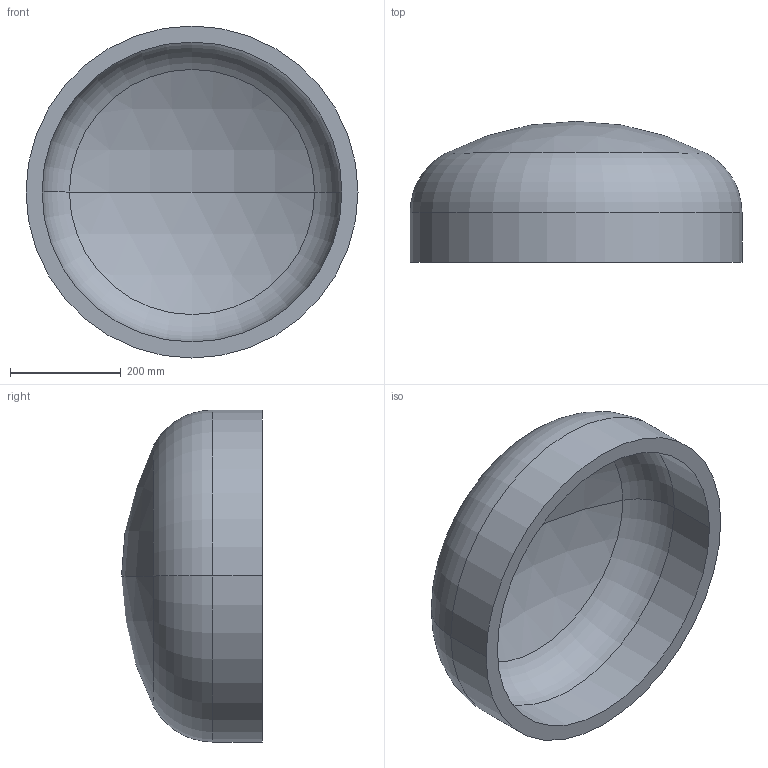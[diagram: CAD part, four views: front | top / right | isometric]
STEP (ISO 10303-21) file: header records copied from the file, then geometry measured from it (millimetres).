
FILE_DESCRIPTION (( 'STEP AP203' ), '1' );
FILE_NAME ('DIN 28013 Korbbogenform_-_Boden DIN 28013 - 600 x 90 - I - s=29.step', '2016-07-01T07:59:17', ( '' ), ( '' ), 'SwSTEP 2.0', 'SolidWorks 2013', '' );
FILE_SCHEMA (( 'CONFIG_CONTROL_DESIGN' ));
Length unit declared in the file: millimetre
Products named in the file (1): DIN 28013 Korbbogenform_-_Boden DIN 28013 - 600 x 90 - I - s=29
Bounding box: 600 x 254.76 x 600 mm (x, y, z)
Volume: 15343978.1 mm3; surface area: 1111988.2 mm2
Topology: 1 solids, 1 shells, 13 faces, 24 edges, 14 vertices
Faces by surface type: torus 4, cylinder 4, sphere 4, plane 1
Entity records: 407 total; most frequent: DIRECTION 72, CARTESIAN_POINT 52, ORIENTED_EDGE 48, AXIS2_PLACEMENT_3D 34, EDGE_CURVE 24, CIRCLE 20, VERTEX_POINT 14, EDGE_LOOP 14
